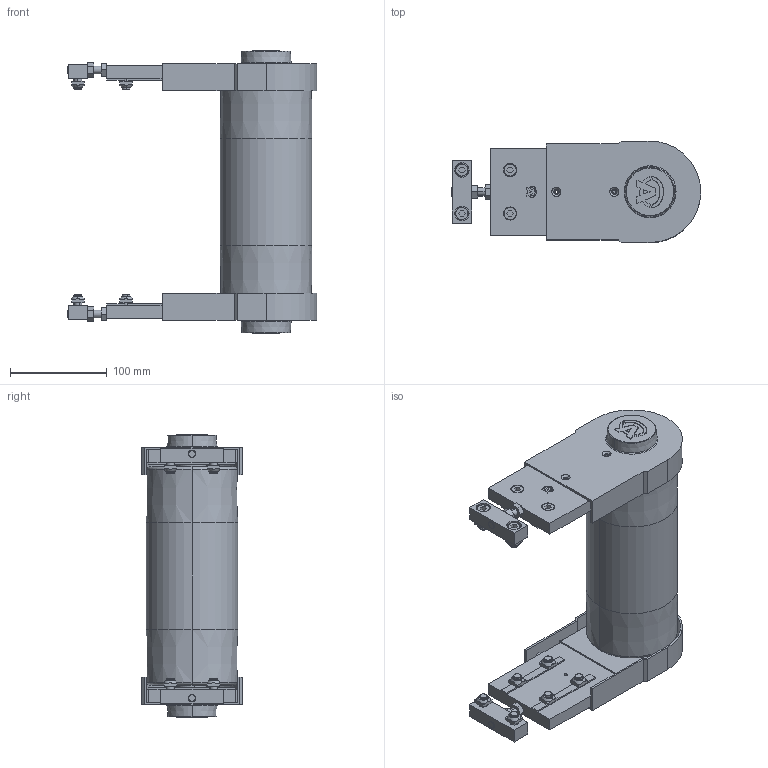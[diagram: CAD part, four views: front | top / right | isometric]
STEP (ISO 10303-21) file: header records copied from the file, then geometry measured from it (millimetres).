
FILE_DESCRIPTION (( 'STEP AP203' ), '1' );
FILE_NAME ('084.095.KIC.200.STEP', '2019-07-30T07:44:33', ( '' ), ( '' ), 'SwSTEP 2.0', 'SolidWorks 2018', '' );
FILE_SCHEMA (( 'CONFIG_CONTROL_DESIGN' ));
Length unit declared in the file: millimetre
Products named in the file (11): 084.816.101_084.816.107<A macchina>; 084.810.003; 084.302.000 DADI ALUSIC 13x13_084.302.004; 084.095.KIC.200; 084.808.006_084.808.002; 084.812.003; 084.802.019_084.802.019; 084.803.005-1; 084.301.000 VITI ALUSIC_084.301.003; Circlip DIN 471 - 30 x 1.5_Circlip DIN 471 - 30 x 1.5; 084.803.003
Assembly tree (39 placements, depth 2):
  084.095.KIC.200
    084.301.000 VITI ALUSIC_084.301.003  x12
    084.302.000 DADI ALUSIC 13x13_084.302.004  x12
    084.816.101_084.816.107<A macchina>
    084.812.003  x2
    084.808.006_084.808.002  x2
    084.810.003  x2
    084.802.019_084.802.019  x2
    084.803.003  x2
    084.803.005-1  x2
    Circlip DIN 471 - 30 x 1.5_Circlip DIN 471 - 30 x 1.5  x2
Bounding box: 258.5 x 105 x 293 mm (x, y, z)
Volume: 1256660 mm3; surface area: 549440.9 mm2
Topology: 45 solids, 47 shells, 1442 faces, 3742 edges, 2452 vertices
Faces by surface type: plane 871, cylinder 331, torus 100, cone 84, bspline 48, sphere 8
Entity records: 21076 total; most frequent: CARTESIAN_POINT 3819, DIRECTION 3211, ORIENTED_EDGE 3174, EDGE_CURVE 1587, AXIS2_PLACEMENT_3D 1081, VECTOR 1049, LINE 1049, VERTEX_POINT 1045
